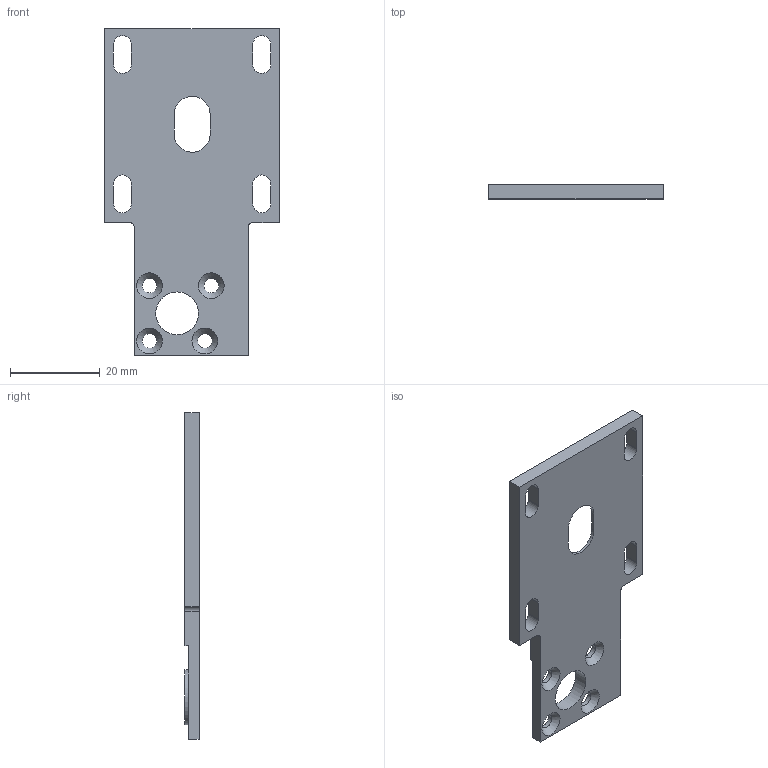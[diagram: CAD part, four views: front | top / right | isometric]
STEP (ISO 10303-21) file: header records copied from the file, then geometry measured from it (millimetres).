
FILE_DESCRIPTION(/* description */ ('Unknown'),/* implementation_level */ '2;1');
FILE_NAME(/* name */ 'DEC Holder',/* time_stamp */ '2023-05-18T12:01:23-04:00',/* author */ ('Unknown'),/* organization */ ('Unknown'),/* preprocessor_version */ 'ST-DEVELOPER v16.7',/* originating_system */ 'DEX',/* authorisation */ $);
FILE_SCHEMA (('AUTOMOTIVE_DESIGN {1 0 10303 214 3 1 1}'));
Length unit declared in the file: millimetre
Products named in the file (1): DEC Holder
Bounding box: 38.89 x 3.17 x 72.72 mm (x, y, z)
Volume: 5210.1 mm3; surface area: 5618.4 mm2
Topology: 1 solids, 1 shells, 50 faces, 136 edges, 90 vertices
Faces by surface type: plane 26, cylinder 20, cone 4
Full cylindrical faces by diameter (mm): 3.264 x4, 9.525 x1, 12.192 x1
Entity records: 1590 total; most frequent: DIRECTION 270, CARTESIAN_POINT 263, ORIENTED_EDGE 248, EDGE_CURVE 124, AXIS2_PLACEMENT_3D 95, VERTEX_POINT 88, EDGE_LOOP 82, FACE_BOUND 82
